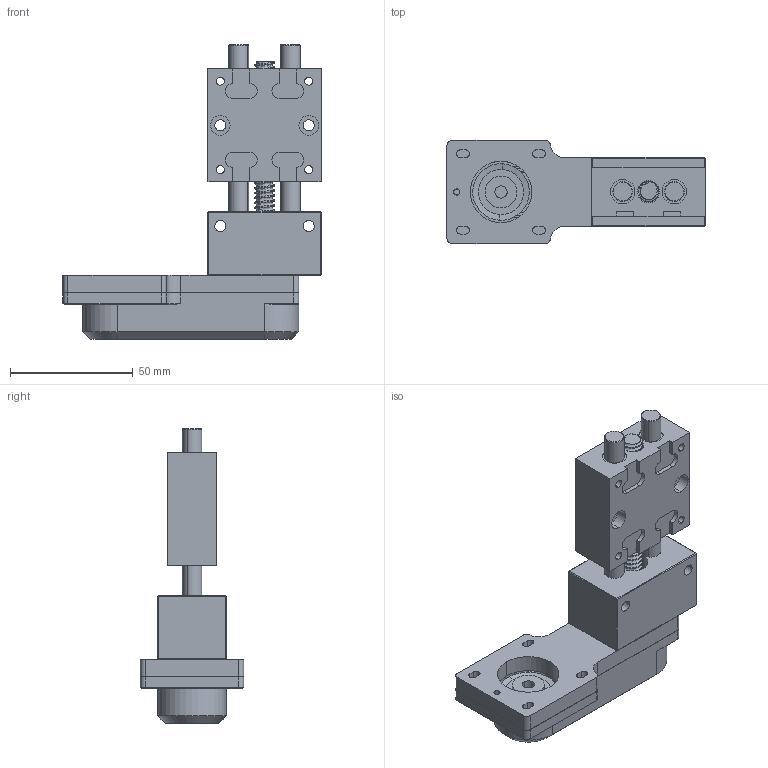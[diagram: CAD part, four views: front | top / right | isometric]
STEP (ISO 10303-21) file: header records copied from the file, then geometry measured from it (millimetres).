
FILE_DESCRIPTION (( 'STEP AP203' ), '1' );
FILE_NAME ('MPT2408-AS-B.STEP', '2016-02-23T15:13:36', ( '' ), ( '' ), 'SwSTEP 2.0', 'SolidWorks 2014', '' );
FILE_SCHEMA (( 'CONFIG_CONTROL_DESIGN' ));
Length unit declared in the file: millimetre
Products named in the file (4): MPT2408-000-01-Festteil-AS; MPT0812-002-Antrieb seitlich; MPT08-000-02-Schlitten-komplett; MPT2408-AS-B
Assembly tree (3 placements, depth 2):
  MPT2408-AS-B
    MPT2408-000-01-Festteil-AS
    MPT0812-002-Antrieb seitlich
    MPT08-000-02-Schlitten-komplett
Bounding box: 105 x 42 x 119.8 mm (x, y, z)
Volume: 116682.4 mm3; surface area: 58494.8 mm2
Topology: 4 solids, 18 shells, 1485 faces, 3988 edges, 2539 vertices
Faces by surface type: plane 649, cylinder 585, cone 155, bspline 86, torus 10
Entity records: 63949 total; most frequent: CARTESIAN_POINT 26787, ORIENTED_EDGE 7928, DIRECTION 7545, EDGE_CURVE 3964, AXIS2_PLACEMENT_3D 2716, VERTEX_POINT 2539, LINE 2113, VECTOR 2113
